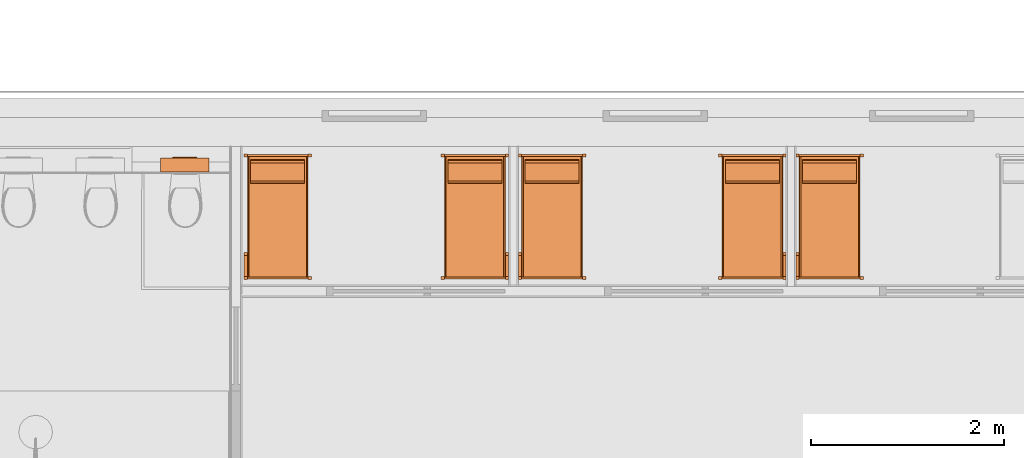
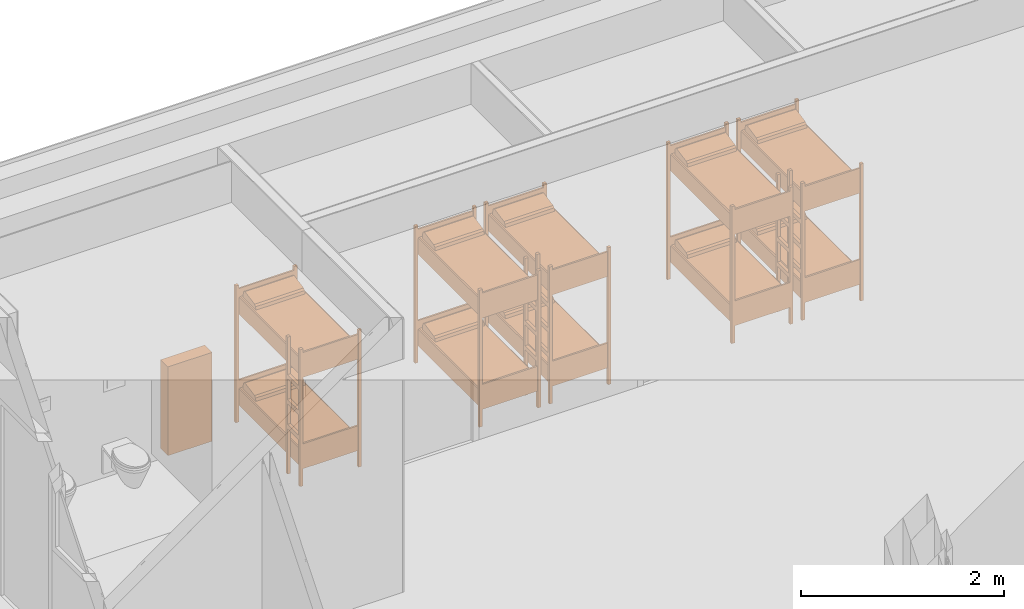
# One storey, part 115 of 167: 6 proxies.
"""IFC2X3 building model written with IfcOpenShell, lengths in millimetres."""

from ifc_helpers import new_model, entity, si_unit, converted_unit, derived_unit, money_unit, direction, frame, origin_with_axes, place, context, subcontext, project, spatial, open_shell, faceted_brep, surface_model, source, transform, mapped, type_object, type_shapes, element, save


model = new_model("IFC2X3")

# Units and contexts
model_context = context("Model", 3, precision=0.01, world=origin_with_axes(), true_north=direction((0.0, 1.0)))
plan_context = context("Plan", 3, precision=0.01, world=origin_with_axes(), true_north=direction((0.0, 1.0)))
body_context = subcontext(model_context, "Body", "Model", "MODEL_VIEW")
ifc_project = project(units=[si_unit("LENGTHUNIT", "METRE", prefix="MILLI"), si_unit("AREAUNIT", "SQUARE_METRE"), si_unit("VOLUMEUNIT", "CUBIC_METRE"), converted_unit("PLANEANGLEUNIT", "DEGREE", entity("IfcPlaneAngleMeasure", 0.0174532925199), si_unit("PLANEANGLEUNIT", "RADIAN"), dimensions=[0, 0, 0, 0, 0, 0, 0]), si_unit("SOLIDANGLEUNIT", "STERADIAN"), money_unit("EUR"), converted_unit("TIMEUNIT", "Year", entity("IfcTimeMeasure", 31556926.0), si_unit("TIMEUNIT", "SECOND"), dimensions=[0, 0, 1, 0, 0, 0, 0]), si_unit("MASSUNIT", "GRAM", prefix="KILO"), si_unit("THERMODYNAMICTEMPERATUREUNIT", "DEGREE_CELSIUS"), si_unit("LUMINOUSINTENSITYUNIT", "LUMEN"), si_unit("ENERGYUNIT", "JOULE", prefix="MEGA"), derived_unit("THERMALCONDUCTANCEUNIT", [(si_unit("POWERUNIT", "WATT"), 1), (si_unit("LENGTHUNIT", "METRE"), -1), (si_unit("THERMODYNAMICTEMPERATUREUNIT", "KELVIN"), -1)]), derived_unit("SPECIFICHEATCAPACITYUNIT", [(si_unit("ENERGYUNIT", "JOULE"), 1), (si_unit("MASSUNIT", "GRAM", prefix="KILO"), -1), (si_unit("THERMODYNAMICTEMPERATUREUNIT", "KELVIN"), -1)]), derived_unit("MASSDENSITYUNIT", [(si_unit("MASSUNIT", "GRAM", prefix="KILO"), 1), (si_unit("VOLUMEUNIT", "CUBIC_METRE"), -1)])], contexts=[model_context, plan_context])

# Site, building, storey
site_placement = place(None, origin_with_axes())
site = spatial("IfcSite", under=ifc_project, at=site_placement, Name="Site", CompositionType="ELEMENT")
building_placement = place(site_placement, origin_with_axes())
building = spatial("IfcBuilding", under=site, at=building_placement, Name="Naam gebouw", CompositionType="ELEMENT")
storey_placement = place(building_placement, origin_with_axes())
storey = spatial("IfcBuildingStorey", under=building, at=storey_placement, Name="Begane grond", CompositionType="ELEMENT", Elevation=0.0)

# Proxies
building_element_proxy_type_1 = type_object("IfcBuildingElementProxyType", Name="Inbouwreservoir 24 KM", PredefinedType="NOTDEFINED")
shared_shape_1 = source(origin_with_axes(), body_context, "Body", "SurfaceModel", [
    faceted_brep([(0.0, 0.0, 0.0), (501.499856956, 0.0, 0.0), (501.499856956, 0.0, 1070.0), (0.0, 0.0, 1070.0), (0.0, 145.000476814, 0.0), (501.499856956, 145.000476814, 0.0), (501.499856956, 145.000476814, 1070.0), (0.0, 145.000476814, 1070.0)], [[[0, 1, 2, 3]], [[0, 4, 5, 1]], [[1, 5, 6, 2]], [[3, 2, 6, 7]], [[4, 0, 3, 7]], [[5, 4, 7, 6]]]),
    surface_model("IfcShellBasedSurfaceModel", [(1.0, 0.0, 0.0), (500.499856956, 0.0, 0.0), (500.499856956, 145.000476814, 1070.0), (1.0, 145.000476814, 1070.0)], [open_shell([[[0, 1, 2, 3]]])]),
    surface_model("IfcShellBasedSurfaceModel", [(1.0, 0.0, 1070.0), (500.499856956, 0.0, 1070.0), (500.499856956, 145.000476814, 0.0), (1.0, 145.000476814, 0.0)], [open_shell([[[0, 1, 2, 3]]])]),
    faceted_brep([(375.749928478, -10.0, 820.0), (125.749928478, -10.0, 820.0), (125.749928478, 0.0, 820.0), (375.749928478, 0.0, 820.0), (375.749928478, -10.0, 980.0), (125.749928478, -10.0, 980.0), (125.749928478, 0.0, 980.0), (375.749928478, 0.0, 980.0)], [[[0, 1, 2, 3]], [[1, 0, 4, 5]], [[2, 1, 5, 6]], [[3, 2, 6, 7]], [[0, 3, 7, 4]], [[5, 4, 7, 6]]]),
    surface_model("IfcShellBasedSurfaceModel", [(325.749928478, 0.0, 850.0), (175.749928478, 0.0, 850.0), (175.749928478, 0.0, 950.0), (325.749928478, 0.0, 950.0)], [open_shell([[[0, 1, 2, 3]]])]),
    surface_model("IfcShellBasedSurfaceModel", [(175.749928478, -10.0, 820.0), (325.749928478, -10.0, 820.0), (325.749928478, -10.0, 855.0), (175.749928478, -10.0, 855.0)], [open_shell([[[0, 1, 2, 3]]])]),
    surface_model("IfcShellBasedSurfaceModel", [(175.749928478, -10.0, 855.0), (265.749928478, -10.0, 855.0), (265.749928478, -10.0, 945.0), (175.749928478, -10.0, 945.0)], [open_shell([[[0, 1, 2, 3]]])]),
    surface_model("IfcShellBasedSurfaceModel", [(265.749928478, -10.0, 855.0), (325.749928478, -10.0, 855.0), (325.749928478, -10.0, 945.0), (265.749928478, -10.0, 945.0)], [open_shell([[[0, 1, 2, 3]]])]),
])
type_shapes(building_element_proxy_type_1, [shared_shape_1])
proxy_placement = place(storey_placement, frame((34146.1874806, 49379.7651256, 0.0), z_axis=(0.0, 0.0, 1.0), x_axis=(-0.999999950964, 0.000313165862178, 0.0)))
element("IfcBuildingElementProxy", 1, at=proxy_placement, inside=storey, type_object=building_element_proxy_type_1, Name="__Object-x", context=body_context, shape_type="MappedRepresentation", body=[
    mapped(shared_shape_1, transform((0.0, 0.0, 0.0))),
])
building_element_proxy_type_2 = type_object("IfcBuildingElementProxyType", Name="Stapelbed 24", PredefinedType="NOTDEFINED")
shared_shape_2 = source(origin_with_axes(), body_context, "Body", "Brep", [
    faceted_brep([(35.0, 1265.0, 0.0), (0.0, 1265.0, 0.0), (0.0, 1296.25, 0.0), (35.0, 1296.25, 0.0), (35.0, 1265.0, 1650.0), (0.0, 1265.0, 1650.0), (0.0, 1296.25, 1650.0), (35.0, 1296.25, 1650.0)], [[[0, 1, 2, 3]], [[1, 0, 4, 5]], [[2, 1, 5, 6]], [[3, 2, 6, 7]], [[0, 3, 7, 4]], [[5, 4, 7, 6]]]),
    faceted_brep([(35.0, -3.75, 0.0), (0.0, -3.75, 0.0), (0.0, 27.5, 0.0), (35.0, 27.5, 0.0), (35.0, -3.75, 1650.0), (0.0, -3.75, 1650.0), (0.0, 27.5, 1650.0), (35.0, 27.5, 1650.0)], [[[0, 1, 2, 3]], [[1, 0, 4, 5]], [[2, 1, 5, 6]], [[3, 2, 6, 7]], [[0, 3, 7, 4]], [[5, 4, 7, 6]]]),
    faceted_brep([(700.0, -3.75, 0.0), (665.0, -3.75, 0.0), (665.0, 27.5, 0.0), (700.0, 27.5, 0.0), (700.0, -3.75, 1650.0), (665.0, -3.75, 1650.0), (665.0, 27.5, 1650.0), (700.0, 27.5, 1650.0)], [[[0, 1, 2, 3]], [[1, 0, 4, 5]], [[2, 1, 5, 6]], [[3, 2, 6, 7]], [[0, 3, 7, 4]], [[5, 4, 7, 6]]]),
    faceted_brep([(700.0, 246.25, 0.0), (665.0, 246.25, 0.0), (665.0, 277.5, 0.0), (700.0, 277.5, 0.0), (700.0, 246.25, 1650.0), (665.0, 246.25, 1650.0), (665.0, 277.5, 1650.0), (700.0, 277.5, 1650.0)], [[[0, 1, 2, 3]], [[1, 0, 4, 5]], [[2, 1, 5, 6]], [[3, 2, 6, 7]], [[0, 3, 7, 4]], [[5, 4, 7, 6]]]),
    faceted_brep([(700.0, 1265.0, 0.0), (665.0, 1265.0, 0.0), (665.0, 1296.25, 0.0), (700.0, 1296.25, 0.0), (700.0, 1265.0, 1650.0), (665.0, 1265.0, 1650.0), (665.0, 1296.25, 1650.0), (700.0, 1296.25, 1650.0)], [[[0, 1, 2, 3]], [[1, 0, 4, 5]], [[2, 1, 5, 6]], [[3, 2, 6, 7]], [[0, 3, 7, 4]], [[5, 4, 7, 6]]]),
    faceted_brep([(665.0, 27.5, 550.0), (700.0, 27.5, 550.0), (700.0, 27.5, 600.0), (665.0, 27.5, 600.0), (665.0, 246.25, 550.0), (700.0, 246.25, 550.0), (700.0, 246.25, 600.0), (665.0, 246.25, 600.0)], [[[0, 1, 2, 3]], [[0, 4, 5, 1]], [[1, 5, 6, 2]], [[3, 2, 6, 7]], [[4, 0, 3, 7]], [[5, 4, 7, 6]]]),
    faceted_brep([(665.0, 27.5, 850.0), (700.0, 27.5, 850.0), (700.0, 27.5, 900.0), (665.0, 27.5, 900.0), (665.0, 246.25, 850.0), (700.0, 246.25, 850.0), (700.0, 246.25, 900.0), (665.0, 246.25, 900.0)], [[[0, 1, 2, 3]], [[0, 4, 5, 1]], [[1, 5, 6, 2]], [[3, 2, 6, 7]], [[4, 0, 3, 7]], [[5, 4, 7, 6]]]),
    faceted_brep([(665.0, 27.5, 1150.0), (700.0, 27.5, 1150.0), (700.0, 27.5, 1200.0), (665.0, 27.5, 1200.0), (665.0, 246.25, 1150.0), (700.0, 246.25, 1150.0), (700.0, 246.25, 1200.0), (665.0, 246.25, 1200.0)], [[[0, 1, 2, 3]], [[0, 4, 5, 1]], [[1, 5, 6, 2]], [[3, 2, 6, 7]], [[4, 0, 3, 7]], [[5, 4, 7, 6]]]),
    faceted_brep([(35.0, 1271.25, 200.0), (665.0, 1271.25, 200.0), (665.0, 21.25, 200.0), (35.0, 21.25, 200.0), (35.0, 1271.25, 300.0), (665.0, 1271.25, 300.0), (665.0, 21.25, 300.0), (35.0, 21.25, 300.0)], [[[0, 1, 2, 3]], [[0, 4, 5, 1]], [[1, 5, 6, 2]], [[3, 2, 6, 7]], [[4, 0, 3, 7]], [[5, 4, 7, 6]]]),
    faceted_brep([(665.0, 1271.25, 300.0), (665.0, 1271.25, 375.0), (665.0, 21.25, 375.0), (665.0, 21.25, 300.0), (35.0, 1271.25, 300.0), (35.0, 1271.25, 375.0), (40.1256313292, 1271.25, 392.67766953), (52.5, 1271.25, 400.0), (647.5, 1271.25, 400.0), (659.874368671, 1271.25, 392.67766953), (659.874368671, 21.25, 392.67766953), (647.5, 21.25, 400.0), (52.5, 21.25, 400.0), (40.1256313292, 21.25, 392.67766953), (35.0, 21.25, 375.0), (35.0, 21.25, 300.0)], [[[0, 1, 2, 3]], [[0, 4, 5, 6, 7, 8, 9, 1]], [[1, 9, 10, 2]], [[3, 2, 10, 11, 12, 13, 14, 15]], [[4, 0, 3, 15]], [[5, 4, 15, 14]], [[6, 5, 14, 13]], [[7, 6, 13, 12]], [[8, 7, 12, 11]], [[9, 8, 11, 10]]]),
    faceted_brep([(35.0, 1271.25, 1300.0), (665.0, 1271.25, 1300.0), (665.0, 21.25, 1300.0), (35.0, 21.25, 1300.0), (35.0, 1271.25, 1400.0), (665.0, 1271.25, 1400.0), (665.0, 21.25, 1400.0), (35.0, 21.25, 1400.0)], [[[0, 1, 2, 3]], [[0, 4, 5, 1]], [[1, 5, 6, 2]], [[3, 2, 6, 7]], [[4, 0, 3, 7]], [[5, 4, 7, 6]]]),
    faceted_brep([(665.0, 1271.25, 1400.0), (665.0, 1271.25, 1475.0), (665.0, 21.25, 1475.0), (665.0, 21.25, 1400.0), (35.0, 1271.25, 1400.0), (35.0, 1271.25, 1475.0), (40.1256313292, 1271.25, 1492.67766953), (52.5, 1271.25, 1500.0), (647.5, 1271.25, 1500.0), (659.874368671, 1271.25, 1492.67766953), (659.874368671, 21.25, 1492.67766953), (647.5, 21.25, 1500.0), (52.5, 21.25, 1500.0), (40.1256313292, 21.25, 1492.67766953), (35.0, 21.25, 1475.0), (35.0, 21.25, 1400.0)], [[[0, 1, 2, 3]], [[0, 4, 5, 6, 7, 8, 9, 1]], [[1, 9, 10, 2]], [[3, 2, 10, 11, 12, 13, 14, 15]], [[4, 0, 3, 15]], [[5, 4, 15, 14]], [[6, 5, 14, 13]], [[7, 6, 13, 12]], [[8, 7, 12, 11]], [[9, 8, 11, 10]]]),
    faceted_brep([(35.0, 21.25, 200.0), (665.0, 21.25, 200.0), (665.0, 2.5, 200.0), (35.0, 2.5, 200.0), (35.0, 21.25, 500.0), (665.0, 21.25, 500.0), (665.0, 2.5, 500.0), (35.0, 2.5, 500.0)], [[[0, 1, 2, 3]], [[0, 4, 5, 1]], [[1, 5, 6, 2]], [[3, 2, 6, 7]], [[4, 0, 3, 7]], [[5, 4, 7, 6]]]),
    faceted_brep([(35.0, 21.25, 1300.0), (665.0, 21.25, 1300.0), (665.0, 2.5, 1300.0), (35.0, 2.5, 1300.0), (35.0, 21.25, 1600.0), (665.0, 21.25, 1600.0), (665.0, 2.5, 1600.0), (35.0, 2.5, 1600.0)], [[[0, 1, 2, 3]], [[0, 4, 5, 1]], [[1, 5, 6, 2]], [[3, 2, 6, 7]], [[4, 0, 3, 7]], [[5, 4, 7, 6]]]),
    faceted_brep([(35.0, 1290.0, 200.0), (665.0, 1290.0, 200.0), (665.0, 1271.25, 200.0), (35.0, 1271.25, 200.0), (35.0, 1290.0, 500.0), (665.0, 1290.0, 500.0), (665.0, 1271.25, 500.0), (35.0, 1271.25, 500.0)], [[[0, 1, 2, 3]], [[0, 4, 5, 1]], [[1, 5, 6, 2]], [[3, 2, 6, 7]], [[4, 0, 3, 7]], [[5, 4, 7, 6]]]),
    faceted_brep([(35.0, 1290.0, 1300.0), (665.0, 1290.0, 1300.0), (665.0, 1271.25, 1300.0), (35.0, 1271.25, 1300.0), (35.0, 1290.0, 1600.0), (665.0, 1290.0, 1600.0), (665.0, 1271.25, 1600.0), (35.0, 1271.25, 1600.0)], [[[0, 1, 2, 3]], [[0, 4, 5, 1]], [[1, 5, 6, 2]], [[3, 2, 6, 7]], [[4, 0, 3, 7]], [[5, 4, 7, 6]]]),
    faceted_brep([(70.0, 1240.0, 400.0), (70.0, 1240.0, 443.4), (630.0, 1240.0, 443.4), (630.0, 1240.0, 400.0), (70.0, 990.0, 400.0), (70.0, 996.575217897, 436.730697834), (70.0, 1017.375, 455.5), (70.0, 1204.875, 493.0), (70.0, 1229.43106723, 480.878660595), (630.0, 1229.43106723, 480.878660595), (630.0, 1204.875, 493.0), (630.0, 1017.375, 455.5), (630.0, 996.575217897, 436.730697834), (630.0, 990.0, 400.0)], [[[0, 1, 2, 3]], [[0, 4, 5, 6, 7, 8, 1]], [[1, 8, 9, 2]], [[3, 2, 9, 10, 11, 12, 13]], [[4, 0, 3, 13]], [[5, 4, 13, 12]], [[6, 5, 12, 11]], [[7, 6, 11, 10]], [[8, 7, 10, 9]]]),
    faceted_brep([(70.0, 1240.0, 1500.0), (70.0, 1240.0, 1543.4), (630.0, 1240.0, 1543.4), (630.0, 1240.0, 1500.0), (70.0, 990.0, 1500.0), (70.0, 996.575217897, 1536.73069783), (70.0, 1017.375, 1555.5), (70.0, 1204.875, 1593.0), (70.0, 1229.43106723, 1580.8786606), (630.0, 1229.43106723, 1580.8786606), (630.0, 1204.875, 1593.0), (630.0, 1017.375, 1555.5), (630.0, 996.575217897, 1536.73069783), (630.0, 990.0, 1500.0)], [[[0, 1, 2, 3]], [[0, 4, 5, 6, 7, 8, 1]], [[1, 8, 9, 2]], [[3, 2, 9, 10, 11, 12, 13]], [[4, 0, 3, 13]], [[5, 4, 13, 12]], [[6, 5, 12, 11]], [[7, 6, 11, 10]], [[8, 7, 10, 9]]]),
])
for number, where, z_axis, x_axis in (
    (2, (39424.9998534, 48125.0001601, 0.0), (0.0, 0.0, 1.0), (1.0, 0.0, 0.0)),
    (3, (36549.9998349, 48125.0001457, 0.0), (0.0, 0.0, 1.0), (1.0, 0.0, 0.0)),
):
    element("IfcBuildingElementProxy", number, at=place(storey_placement, frame(where, z_axis=z_axis, x_axis=x_axis)), inside=storey, type_object=building_element_proxy_type_2, Name="__object-x", context=body_context, shape_type="MappedRepresentation", body=[
        mapped(shared_shape_2, transform((0.0, 0.0, 0.0))),
    ])
shared_shape_3 = source(origin_with_axes(), body_context, "Body", "Brep", [
    faceted_brep([(-35.0, 1265.0, 0.0), (-35.0, 1296.25, 0.0), (0.0, 1296.25, 0.0), (0.0, 1265.0, 0.0), (-35.0, 1265.0, 1650.0), (-35.0, 1296.25, 1650.0), (0.0, 1296.25, 1650.0), (0.0, 1265.0, 1650.0)], [[[0, 1, 2, 3]], [[0, 4, 5, 1]], [[1, 5, 6, 2]], [[2, 6, 7, 3]], [[3, 7, 4, 0]], [[7, 6, 5, 4]]]),
    faceted_brep([(-35.0, -3.75, 0.0), (-35.0, 27.5, 0.0), (0.0, 27.5, 0.0), (0.0, -3.75, 0.0), (-35.0, -3.75, 1650.0), (-35.0, 27.5, 1650.0), (0.0, 27.5, 1650.0), (0.0, -3.75, 1650.0)], [[[0, 1, 2, 3]], [[0, 4, 5, 1]], [[1, 5, 6, 2]], [[2, 6, 7, 3]], [[3, 7, 4, 0]], [[7, 6, 5, 4]]]),
    faceted_brep([(-700.0, -3.75, 0.0), (-700.0, 27.5, 0.0), (-665.0, 27.5, 0.0), (-665.0, -3.75, 0.0), (-700.0, -3.75, 1650.0), (-700.0, 27.5, 1650.0), (-665.0, 27.5, 1650.0), (-665.0, -3.75, 1650.0)], [[[0, 1, 2, 3]], [[0, 4, 5, 1]], [[1, 5, 6, 2]], [[2, 6, 7, 3]], [[3, 7, 4, 0]], [[7, 6, 5, 4]]]),
    faceted_brep([(-700.0, 246.25, 0.0), (-700.0, 277.5, 0.0), (-665.0, 277.5, 0.0), (-665.0, 246.25, 0.0), (-700.0, 246.25, 1650.0), (-700.0, 277.5, 1650.0), (-665.0, 277.5, 1650.0), (-665.0, 246.25, 1650.0)], [[[0, 1, 2, 3]], [[0, 4, 5, 1]], [[1, 5, 6, 2]], [[2, 6, 7, 3]], [[3, 7, 4, 0]], [[7, 6, 5, 4]]]),
    faceted_brep([(-700.0, 1265.0, 0.0), (-700.0, 1296.25, 0.0), (-665.0, 1296.25, 0.0), (-665.0, 1265.0, 0.0), (-700.0, 1265.0, 1650.0), (-700.0, 1296.25, 1650.0), (-665.0, 1296.25, 1650.0), (-665.0, 1265.0, 1650.0)], [[[0, 1, 2, 3]], [[0, 4, 5, 1]], [[1, 5, 6, 2]], [[2, 6, 7, 3]], [[3, 7, 4, 0]], [[7, 6, 5, 4]]]),
    faceted_brep([(-665.0, 27.5, 550.0), (-665.0, 27.5, 600.0), (-700.0, 27.5, 600.0), (-700.0, 27.5, 550.0), (-665.0, 246.25, 550.0), (-665.0, 246.25, 600.0), (-700.0, 246.25, 600.0), (-700.0, 246.25, 550.0)], [[[0, 1, 2, 3]], [[4, 5, 1, 0]], [[1, 5, 6, 2]], [[3, 2, 6, 7]], [[0, 3, 7, 4]], [[7, 6, 5, 4]]]),
    faceted_brep([(-665.0, 27.5, 850.0), (-665.0, 27.5, 900.0), (-700.0, 27.5, 900.0), (-700.0, 27.5, 850.0), (-665.0, 246.25, 850.0), (-665.0, 246.25, 900.0), (-700.0, 246.25, 900.0), (-700.0, 246.25, 850.0)], [[[0, 1, 2, 3]], [[4, 5, 1, 0]], [[1, 5, 6, 2]], [[3, 2, 6, 7]], [[0, 3, 7, 4]], [[7, 6, 5, 4]]]),
    faceted_brep([(-665.0, 27.5, 1150.0), (-665.0, 27.5, 1200.0), (-700.0, 27.5, 1200.0), (-700.0, 27.5, 1150.0), (-665.0, 246.25, 1150.0), (-665.0, 246.25, 1200.0), (-700.0, 246.25, 1200.0), (-700.0, 246.25, 1150.0)], [[[0, 1, 2, 3]], [[4, 5, 1, 0]], [[1, 5, 6, 2]], [[3, 2, 6, 7]], [[0, 3, 7, 4]], [[7, 6, 5, 4]]]),
    faceted_brep([(-35.0, 1271.25, 200.0), (-35.0, 21.25, 200.0), (-665.0, 21.25, 200.0), (-665.0, 1271.25, 200.0), (-35.0, 1271.25, 300.0), (-35.0, 21.25, 300.0), (-665.0, 21.25, 300.0), (-665.0, 1271.25, 300.0)], [[[0, 1, 2, 3]], [[4, 5, 1, 0]], [[1, 5, 6, 2]], [[3, 2, 6, 7]], [[0, 3, 7, 4]], [[7, 6, 5, 4]]]),
    faceted_brep([(-665.0, 1271.25, 300.0), (-665.0, 21.25, 300.0), (-665.0, 21.25, 375.0), (-665.0, 1271.25, 375.0), (-35.0, 1271.25, 300.0), (-35.0, 21.25, 300.0), (-35.0, 21.25, 375.0), (-40.1256313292, 21.25, 392.67766953), (-52.5, 21.25, 400.0), (-647.5, 21.25, 400.0), (-659.874368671, 21.25, 392.67766953), (-659.874368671, 1271.25, 392.67766953), (-647.5, 1271.25, 400.0), (-52.5, 1271.25, 400.0), (-40.1256313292, 1271.25, 392.67766953), (-35.0, 1271.25, 375.0)], [[[0, 1, 2, 3]], [[4, 5, 1, 0]], [[1, 5, 6, 7, 8, 9, 10, 2]], [[3, 2, 10, 11]], [[0, 3, 11, 12, 13, 14, 15, 4]], [[15, 6, 5, 4]], [[14, 7, 6, 15]], [[13, 8, 7, 14]], [[12, 9, 8, 13]], [[11, 10, 9, 12]]]),
    faceted_brep([(-35.0, 1271.25, 1300.0), (-35.0, 21.25, 1300.0), (-665.0, 21.25, 1300.0), (-665.0, 1271.25, 1300.0), (-35.0, 1271.25, 1400.0), (-35.0, 21.25, 1400.0), (-665.0, 21.25, 1400.0), (-665.0, 1271.25, 1400.0)], [[[0, 1, 2, 3]], [[4, 5, 1, 0]], [[1, 5, 6, 2]], [[3, 2, 6, 7]], [[0, 3, 7, 4]], [[7, 6, 5, 4]]]),
    faceted_brep([(-665.0, 1271.25, 1400.0), (-665.0, 21.25, 1400.0), (-665.0, 21.25, 1475.0), (-665.0, 1271.25, 1475.0), (-35.0, 1271.25, 1400.0), (-35.0, 21.25, 1400.0), (-35.0, 21.25, 1475.0), (-40.1256313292, 21.25, 1492.67766953), (-52.5, 21.25, 1500.0), (-647.5, 21.25, 1500.0), (-659.874368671, 21.25, 1492.67766953), (-659.874368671, 1271.25, 1492.67766953), (-647.5, 1271.25, 1500.0), (-52.5, 1271.25, 1500.0), (-40.1256313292, 1271.25, 1492.67766953), (-35.0, 1271.25, 1475.0)], [[[0, 1, 2, 3]], [[4, 5, 1, 0]], [[1, 5, 6, 7, 8, 9, 10, 2]], [[3, 2, 10, 11]], [[0, 3, 11, 12, 13, 14, 15, 4]], [[15, 6, 5, 4]], [[14, 7, 6, 15]], [[13, 8, 7, 14]], [[12, 9, 8, 13]], [[11, 10, 9, 12]]]),
    faceted_brep([(-35.0, 21.25, 200.0), (-35.0, 2.5, 200.0), (-665.0, 2.5, 200.0), (-665.0, 21.25, 200.0), (-35.0, 21.25, 500.0), (-35.0, 2.5, 500.0), (-665.0, 2.5, 500.0), (-665.0, 21.25, 500.0)], [[[0, 1, 2, 3]], [[4, 5, 1, 0]], [[1, 5, 6, 2]], [[3, 2, 6, 7]], [[0, 3, 7, 4]], [[7, 6, 5, 4]]]),
    faceted_brep([(-35.0, 21.25, 1300.0), (-35.0, 2.5, 1300.0), (-665.0, 2.5, 1300.0), (-665.0, 21.25, 1300.0), (-35.0, 21.25, 1600.0), (-35.0, 2.5, 1600.0), (-665.0, 2.5, 1600.0), (-665.0, 21.25, 1600.0)], [[[0, 1, 2, 3]], [[4, 5, 1, 0]], [[1, 5, 6, 2]], [[3, 2, 6, 7]], [[0, 3, 7, 4]], [[7, 6, 5, 4]]]),
    faceted_brep([(-35.0, 1290.0, 200.0), (-35.0, 1271.25, 200.0), (-665.0, 1271.25, 200.0), (-665.0, 1290.0, 200.0), (-35.0, 1290.0, 500.0), (-35.0, 1271.25, 500.0), (-665.0, 1271.25, 500.0), (-665.0, 1290.0, 500.0)], [[[0, 1, 2, 3]], [[4, 5, 1, 0]], [[1, 5, 6, 2]], [[3, 2, 6, 7]], [[0, 3, 7, 4]], [[7, 6, 5, 4]]]),
    faceted_brep([(-35.0, 1290.0, 1300.0), (-35.0, 1271.25, 1300.0), (-665.0, 1271.25, 1300.0), (-665.0, 1290.0, 1300.0), (-35.0, 1290.0, 1600.0), (-35.0, 1271.25, 1600.0), (-665.0, 1271.25, 1600.0), (-665.0, 1290.0, 1600.0)], [[[0, 1, 2, 3]], [[4, 5, 1, 0]], [[1, 5, 6, 2]], [[3, 2, 6, 7]], [[0, 3, 7, 4]], [[7, 6, 5, 4]]]),
    faceted_brep([(-70.0, 1240.0, 400.0), (-630.0, 1240.0, 400.0), (-630.0, 1240.0, 443.4), (-70.0, 1240.0, 443.4), (-70.0, 990.0, 400.0), (-630.0, 990.0, 400.0), (-630.0, 996.575217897, 436.730697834), (-630.0, 1017.375, 455.5), (-630.0, 1204.875, 493.0), (-630.0, 1229.43106723, 480.878660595), (-70.0, 1229.43106723, 480.878660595), (-70.0, 1204.875, 493.0), (-70.0, 1017.375, 455.5), (-70.0, 996.575217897, 436.730697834)], [[[0, 1, 2, 3]], [[4, 5, 1, 0]], [[1, 5, 6, 7, 8, 9, 2]], [[3, 2, 9, 10]], [[0, 3, 10, 11, 12, 13, 4]], [[13, 6, 5, 4]], [[12, 7, 6, 13]], [[11, 8, 7, 12]], [[10, 9, 8, 11]]]),
    faceted_brep([(-70.0, 1240.0, 1500.0), (-630.0, 1240.0, 1500.0), (-630.0, 1240.0, 1543.4), (-70.0, 1240.0, 1543.4), (-70.0, 990.0, 1500.0), (-630.0, 990.0, 1500.0), (-630.0, 996.575217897, 1536.73069783), (-630.0, 1017.375, 1555.5), (-630.0, 1204.875, 1593.0), (-630.0, 1229.43106723, 1580.8786606), (-70.0, 1229.43106723, 1580.8786606), (-70.0, 1204.875, 1593.0), (-70.0, 1017.375, 1555.5), (-70.0, 996.575217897, 1536.73069783)], [[[0, 1, 2, 3]], [[4, 5, 1, 0]], [[1, 5, 6, 7, 8, 9, 2]], [[3, 2, 9, 10]], [[0, 3, 10, 11, 12, 13, 4]], [[13, 6, 5, 4]], [[12, 7, 6, 13]], [[11, 8, 7, 12]], [[10, 9, 8, 11]]]),
])
type_shapes(building_element_proxy_type_2, [shared_shape_2, shared_shape_3])
for number, where, z_axis, x_axis in (
    (4, (38049.999841, 48125.0001601, 0.0), (0.0, 0.0, 1.0), (1.0, 0.0, 0.0)),
    (5, (35207.6544436, 48125.000157, 0.0), (0.0, 0.0, 1.0), (1.0, 0.0, 0.0)),
    (6, (40924.9998595, 48125.0001457, 0.0), (0.0, 0.0, 1.0), (1.0, 0.0, 0.0)),
):
    element("IfcBuildingElementProxy", number, at=place(storey_placement, frame(where, z_axis=z_axis, x_axis=x_axis)), inside=storey, type_object=building_element_proxy_type_2, Name="__object-x", context=body_context, shape_type="MappedRepresentation", body=[
        mapped(shared_shape_3, transform((0.0, 0.0, 0.0))),
    ])

save(model, "model.ifc")
